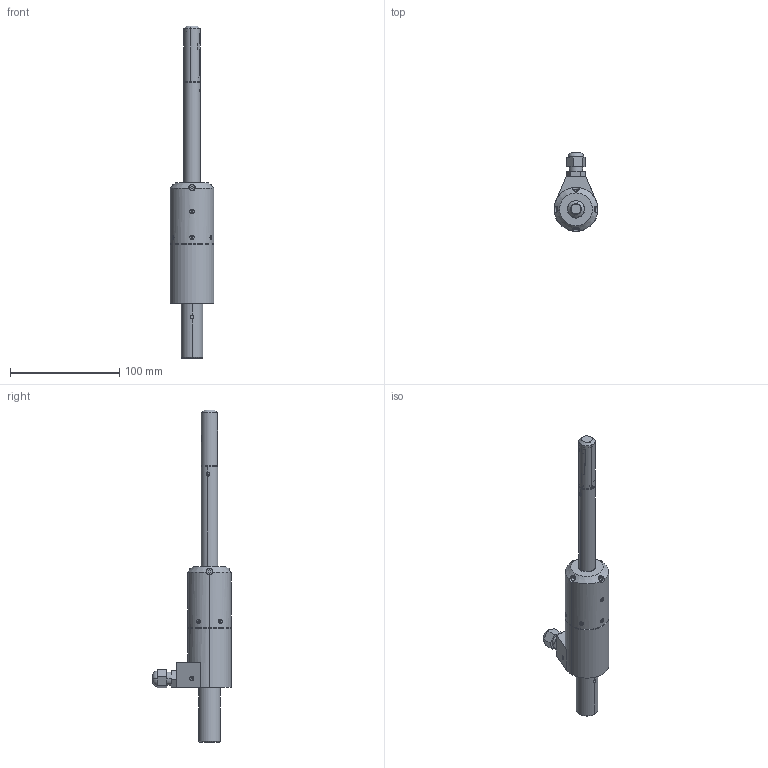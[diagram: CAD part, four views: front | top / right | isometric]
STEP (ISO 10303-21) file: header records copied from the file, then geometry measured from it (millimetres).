
FILE_DESCRIPTION (( 'STEP AP203' ), '1' );
FILE_NAME ('俶 609.15Rt.000_捘.STEP', '2020-03-24T07:17:22', ( 'user' ), ( 'Ref' ), 'SwSTEP 2.0', 'SolidWorks 2015', '' );
FILE_SCHEMA (( 'CONFIG_CONTROL_DESIGN' ));
Length unit declared in the file: millimetre
Products named in the file (13): 俶 609.15.00騶盷謥羻僾鴀 Rt; 俶 607.11.00_櫻謷飶罻; Âèíò_Ì1.6õ4; Âèíò_Ì3õ8; ÐÔ 609.15Rt_Èçìåðèòåëüíûé ìîäóëü; ÐÔ 607.11.00_Äåðæàâêà Êàáåëÿ; 俶 609.15Rt.000_捘; Âèíò_Ì2õ4; 佤瞁鍱; 妈眚_󉞄_鲨腠漯; 俶 609.15.00騶扻豵鵨; ﾐﾔ 609.15.00ﾊ鮻; ÐÔ 609.05.00_Îñíîâàíèå ýëåêòðî  Rt
Assembly tree (23 placements, depth 3):
  俶 609.15Rt.000_捘
    ÐÔ 609.05.00_Îñíîâàíèå ýëåêòðî  Rt
    俶 607.11.00_櫻謷飶罻
    Âèíò_Ì3õ8  x4
    ÐÔ 607.11.00_Äåðæàâêà Êàáåëÿ
    Âèíò_Ì2õ4  x7
    佤瞁鍱
    妈眚_󉞄_鲨腠漯
    ÐÔ 609.15Rt_Èçìåðèòåëüíûé ìîäóëü
      俶 609.15.00騶扻豵鵨
      ﾐﾔ 609.15.00ﾊ鮻
      俶 609.15.00騶盷謥羻僾鴀 Rt
      Âèíò_Ì1.6õ4  x3
Bounding box: 40 x 71.97 x 303.8 mm (x, y, z)
Volume: 85620.9 mm3; surface area: 58172.8 mm2
Topology: 26 solids, 26 shells, 777 faces, 1946 edges, 1232 vertices
Faces by surface type: plane 329, cylinder 272, cone 162, torus 14
Entity records: 20086 total; most frequent: CARTESIAN_POINT 5492, ORIENTED_EDGE 2710, DIRECTION 2707, EDGE_CURVE 1355, AXIS2_PLACEMENT_3D 1038, VERTEX_POINT 857, VECTOR 631, LINE 631
